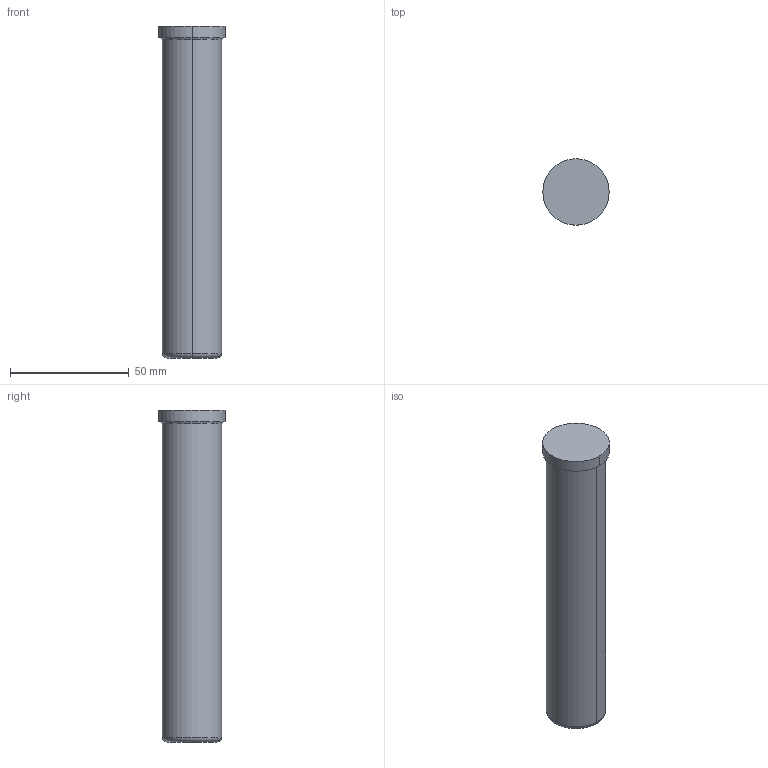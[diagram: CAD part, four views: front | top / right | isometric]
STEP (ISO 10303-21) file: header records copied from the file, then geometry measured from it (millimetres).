
FILE_DESCRIPTION(/* description */ (''),/* implementation_level */ '2;1');
FILE_NAME(/* name */ '3d_sgph25-140_00275_r00.stp',/* time_stamp */ '2011-01-10T14:11:07+09:00',/* author */ ('MISUMI'),/* organization */ (''),/* preprocessor_version */ 'ST-DEVELOPER v11',/* originating_system */ 'UGS - NX 5.0',/* authorisation */ '');
FILE_SCHEMA (('CONFIG_CONTROL_DESIGN'));
Length unit declared in the file: millimetre
Products named in the file (1): 3d_sgph25-140_00275_r00
Bounding box: 28 x 28 x 140 mm (x, y, z)
Volume: 69286 mm3; surface area: 12188.3 mm2
Topology: 1 solids, 1 shells, 11 faces, 20 edges, 12 vertices
Faces by surface type: cylinder 4, torus 4, plane 3
Entity records: 364 total; most frequent: DIRECTION 60, CARTESIAN_POINT 44, ORIENTED_EDGE 40, AXIS2_PLACEMENT_3D 28, EDGE_CURVE 20, CIRCLE 16, EDGE_LOOP 12, VERTEX_POINT 12
